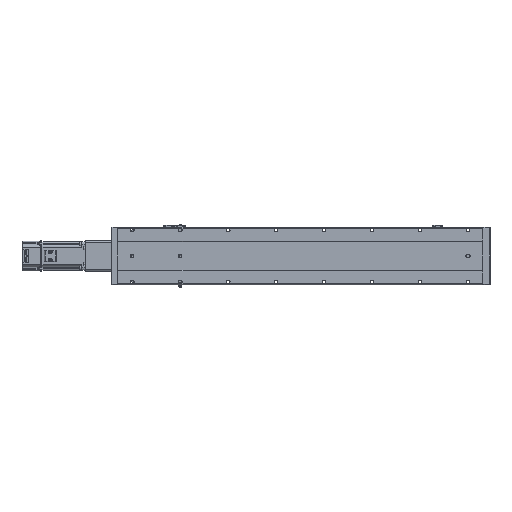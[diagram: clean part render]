
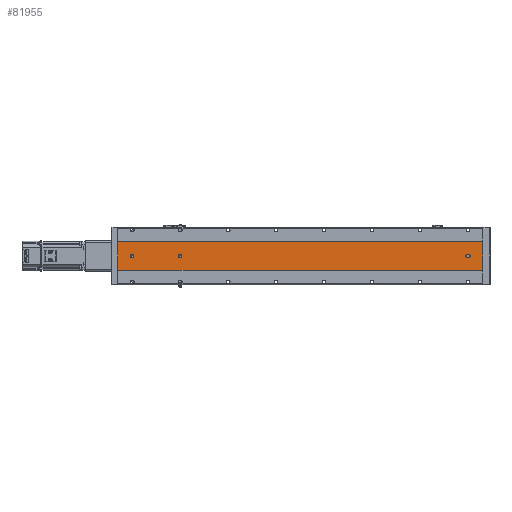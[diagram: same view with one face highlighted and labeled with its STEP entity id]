
A CAD part, front view. The second image highlights one B-rep face of the part: STEP entity #81955.
In plain terms, the highlighted planar face has unit normal (0, -1, 0).
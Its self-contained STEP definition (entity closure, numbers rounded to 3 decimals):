
#693 = LINE ( 'NONE', #47757, #72857 ) ;
#914 = FACE_BOUND ( 'NONE', #10832, .T. ) ;
#2018 = VERTEX_POINT ( 'NONE', #38039 ) ;
#5416 = EDGE_CURVE ( 'NONE', #80108, #61753, #42282, .T. ) ;
#6539 = CARTESIAN_POINT ( 'NONE',  ( -39.892, -52.848, 631. ) ) ;
#7063 = CIRCLE ( 'NONE', #67896, 3.5 ) ;
#7098 = VERTEX_POINT ( 'NONE', #72562 ) ;
#8058 = DIRECTION ( 'NONE',  ( 0., 1., 0. ) ) ;
#8358 = CARTESIAN_POINT ( 'NONE',  ( -69.892, -52.848, 761. ) ) ;
#9458 = CARTESIAN_POINT ( 'NONE',  ( -36.392, -52.848, 30. ) ) ;
#10104 = LINE ( 'NONE', #30749, #59276 ) ;
#10168 = ORIENTED_EDGE ( 'NONE', *, *, #70714, .T. ) ;
#10832 = EDGE_LOOP ( 'NONE', ( #86366, #84677, #24077, #22786, #30952 ) ) ;
#10967 = CARTESIAN_POINT ( 'NONE',  ( -39.892, -52.848, 731. ) ) ;
#11127 = VECTOR ( 'NONE', #82750, 1000. ) ;
#13558 = AXIS2_PLACEMENT_3D ( 'NONE', #64908, #37168, #22481 ) ;
#14277 = ORIENTED_EDGE ( 'NONE', *, *, #5416, .T. ) ;
#14358 = EDGE_CURVE ( 'NONE', #78256, #74847, #73293, .T. ) ;
#14712 = EDGE_CURVE ( 'NONE', #76633, #84995, #62416, .T. ) ;
#15091 = DIRECTION ( 'NONE',  ( 0., 0., 1. ) ) ;
#16685 = DIRECTION ( 'NONE',  ( 0., 1., 0. ) ) ;
#17652 = EDGE_LOOP ( 'NONE', ( #10168, #18789 ) ) ;
#17813 = ORIENTED_EDGE ( 'NONE', *, *, #66340, .F. ) ;
#17973 = DIRECTION ( 'NONE',  ( 0., 0., 1. ) ) ;
#18343 = VECTOR ( 'NONE', #51585, 1000. ) ;
#18789 = ORIENTED_EDGE ( 'NONE', *, *, #23688, .T. ) ;
#19000 = VERTEX_POINT ( 'NONE', #56727 ) ;
#19051 = VECTOR ( 'NONE', #77723, 1000. ) ;
#19536 = CARTESIAN_POINT ( 'NONE',  ( -43.392, -52.848, 32. ) ) ;
#21551 = DIRECTION ( 'NONE',  ( 0., 1., 0. ) ) ;
#22151 = DIRECTION ( 'NONE',  ( 0., 0., 1. ) ) ;
#22481 = DIRECTION ( 'NONE',  ( 0., 0., 1. ) ) ;
#22786 = ORIENTED_EDGE ( 'NONE', *, *, #14358, .T. ) ;
#23688 = EDGE_CURVE ( 'NONE', #7098, #19000, #86078, .T. ) ;
#24077 = ORIENTED_EDGE ( 'NONE', *, *, #50689, .T. ) ;
#25025 = FACE_BOUND ( 'NONE', #17652, .T. ) ;
#25380 = VERTEX_POINT ( 'NONE', #76997 ) ;
#26030 = LINE ( 'NONE', #79292, #18343 ) ;
#27559 = ORIENTED_EDGE ( 'NONE', *, *, #82099, .T. ) ;
#28432 = CARTESIAN_POINT ( 'NONE',  ( -43.392, -52.848, 30. ) ) ;
#28814 = EDGE_LOOP ( 'NONE', ( #14277, #27559 ) ) ;
#29486 = ORIENTED_EDGE ( 'NONE', *, *, #90510, .T. ) ;
#30416 = AXIS2_PLACEMENT_3D ( 'NONE', #10967, #73836, #17973 ) ;
#30749 = CARTESIAN_POINT ( 'NONE',  ( -69.892, -52.848, 761. ) ) ;
#30952 = ORIENTED_EDGE ( 'NONE', *, *, #63164, .T. ) ;
#31612 = CIRCLE ( 'NONE', #13558, 3.5 ) ;
#37168 = DIRECTION ( 'NONE',  ( 0., 1., 0. ) ) ;
#38039 = CARTESIAN_POINT ( 'NONE',  ( -9.892, -52.848, 761. ) ) ;
#39457 = VERTEX_POINT ( 'NONE', #74313 ) ;
#42282 = CIRCLE ( 'NONE', #88532, 3.5 ) ;
#42386 = CARTESIAN_POINT ( 'NONE',  ( -69.892, -52.848, 761. ) ) ;
#43623 = FACE_BOUND ( 'NONE', #28814, .T. ) ;
#47757 = CARTESIAN_POINT ( 'NONE',  ( -69.892, -52.848, 0. ) ) ;
#48783 = DIRECTION ( 'NONE',  ( 0., 1., 0. ) ) ;
#50689 = EDGE_CURVE ( 'NONE', #39457, #78256, #26030, .T. ) ;
#50699 = CARTESIAN_POINT ( 'NONE',  ( -39.892, -52.848, 30. ) ) ;
#51507 = VECTOR ( 'NONE', #67344, 1000. ) ;
#51585 = DIRECTION ( 'NONE',  ( 0., 0., -1. ) ) ;
#52458 = CARTESIAN_POINT ( 'NONE',  ( -43.392, -52.848, 761. ) ) ;
#54357 = VERTEX_POINT ( 'NONE', #70208 ) ;
#56727 = CARTESIAN_POINT ( 'NONE',  ( -39.892, -52.848, 727.5 ) ) ;
#57278 = ORIENTED_EDGE ( 'NONE', *, *, #85038, .F. ) ;
#59276 = VECTOR ( 'NONE', #65822, 1000. ) ;
#59370 = VERTEX_POINT ( 'NONE', #73129 ) ;
#60402 = CARTESIAN_POINT ( 'NONE',  ( -39.892, -52.848, 627.5 ) ) ;
#61753 = VERTEX_POINT ( 'NONE', #86588 ) ;
#62296 = EDGE_LOOP ( 'NONE', ( #29486, #57278, #17813, #84055 ) ) ;
#62416 = LINE ( 'NONE', #52458, #51507 ) ;
#63117 = PLANE ( 'NONE',  #71461 ) ;
#63164 = EDGE_CURVE ( 'NONE', #74847, #76633, #69860, .T. ) ;
#63635 = AXIS2_PLACEMENT_3D ( 'NONE', #50699, #16685, #72558 ) ;
#63973 = CARTESIAN_POINT ( 'NONE',  ( -39.892, -52.848, 32. ) ) ;
#64908 = CARTESIAN_POINT ( 'NONE',  ( -39.892, -52.848, 631. ) ) ;
#65822 = DIRECTION ( 'NONE',  ( 0., 0., -1. ) ) ;
#66275 = CARTESIAN_POINT ( 'NONE',  ( -39.892, -52.848, 26.5 ) ) ;
#66340 = EDGE_CURVE ( 'NONE', #54357, #2018, #78061, .T. ) ;
#66379 = EDGE_CURVE ( 'NONE', #84995, #39457, #7063, .T. ) ;
#67344 = DIRECTION ( 'NONE',  ( 0., 0., 1. ) ) ;
#67537 = CIRCLE ( 'NONE', #82846, 3.5 ) ;
#67824 = CARTESIAN_POINT ( 'NONE',  ( -9.892, -52.848, 761. ) ) ;
#67896 = AXIS2_PLACEMENT_3D ( 'NONE', #63973, #21551, #22151 ) ;
#69860 = CIRCLE ( 'NONE', #63635, 3.5 ) ;
#70208 = CARTESIAN_POINT ( 'NONE',  ( -69.892, -52.848, 761. ) ) ;
#70714 = EDGE_CURVE ( 'NONE', #19000, #7098, #67537, .T. ) ;
#70897 = FACE_OUTER_BOUND ( 'NONE', #62296, .T. ) ;
#71461 = AXIS2_PLACEMENT_3D ( 'NONE', #42386, #77134, #76827 ) ;
#72103 = AXIS2_PLACEMENT_3D ( 'NONE', #77706, #8058, #15091 ) ;
#72558 = DIRECTION ( 'NONE',  ( 0., 0., 1. ) ) ;
#72562 = CARTESIAN_POINT ( 'NONE',  ( -39.892, -52.848, 734.5 ) ) ;
#72857 = VECTOR ( 'NONE', #80652, 1000. ) ;
#73129 = CARTESIAN_POINT ( 'NONE',  ( -69.892, -52.848, 0. ) ) ;
#73293 = CIRCLE ( 'NONE', #72103, 3.5 ) ;
#73802 = DIRECTION ( 'NONE',  ( 0., 0., 1. ) ) ;
#73836 = DIRECTION ( 'NONE',  ( 0., 1., 0. ) ) ;
#74105 = CARTESIAN_POINT ( 'NONE',  ( -39.892, -52.848, 731. ) ) ;
#74313 = CARTESIAN_POINT ( 'NONE',  ( -36.392, -52.848, 32. ) ) ;
#74847 = VERTEX_POINT ( 'NONE', #66275 ) ;
#76633 = VERTEX_POINT ( 'NONE', #28432 ) ;
#76827 = DIRECTION ( 'NONE',  ( 0., 0., 1. ) ) ;
#76997 = CARTESIAN_POINT ( 'NONE',  ( -9.892, -52.848, 0. ) ) ;
#77134 = DIRECTION ( 'NONE',  ( 0., 1., 0. ) ) ;
#77706 = CARTESIAN_POINT ( 'NONE',  ( -39.892, -52.848, 30. ) ) ;
#77723 = DIRECTION ( 'NONE',  ( 1., 0., 0. ) ) ;
#78061 = LINE ( 'NONE', #8358, #19051 ) ;
#78256 = VERTEX_POINT ( 'NONE', #9458 ) ;
#79292 = CARTESIAN_POINT ( 'NONE',  ( -36.392, -52.848, 761. ) ) ;
#80108 = VERTEX_POINT ( 'NONE', #60402 ) ;
#80652 = DIRECTION ( 'NONE',  ( 1., 0., 0. ) ) ;
#80859 = DIRECTION ( 'NONE',  ( 0., 1., 0. ) ) ;
#81955 = ADVANCED_FACE ( 'NONE', ( #914, #43623, #25025, #70897 ), #63117, .F. ) ;
#82099 = EDGE_CURVE ( 'NONE', #61753, #80108, #31612, .T. ) ;
#82602 = DIRECTION ( 'NONE',  ( 0., 0., 1. ) ) ;
#82750 = DIRECTION ( 'NONE',  ( 0., 0., -1. ) ) ;
#82846 = AXIS2_PLACEMENT_3D ( 'NONE', #74105, #80859, #73802 ) ;
#84055 = ORIENTED_EDGE ( 'NONE', *, *, #84372, .T. ) ;
#84372 = EDGE_CURVE ( 'NONE', #54357, #59370, #10104, .T. ) ;
#84677 = ORIENTED_EDGE ( 'NONE', *, *, #66379, .T. ) ;
#84995 = VERTEX_POINT ( 'NONE', #19536 ) ;
#85038 = EDGE_CURVE ( 'NONE', #2018, #25380, #87629, .T. ) ;
#86078 = CIRCLE ( 'NONE', #30416, 3.5 ) ;
#86366 = ORIENTED_EDGE ( 'NONE', *, *, #14712, .T. ) ;
#86588 = CARTESIAN_POINT ( 'NONE',  ( -39.892, -52.848, 634.5 ) ) ;
#87629 = LINE ( 'NONE', #67824, #11127 ) ;
#88532 = AXIS2_PLACEMENT_3D ( 'NONE', #6539, #48783, #82602 ) ;
#90510 = EDGE_CURVE ( 'NONE', #59370, #25380, #693, .T. ) ;
